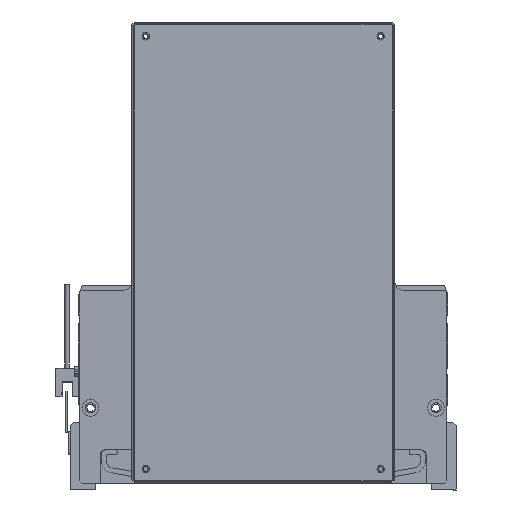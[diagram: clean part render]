
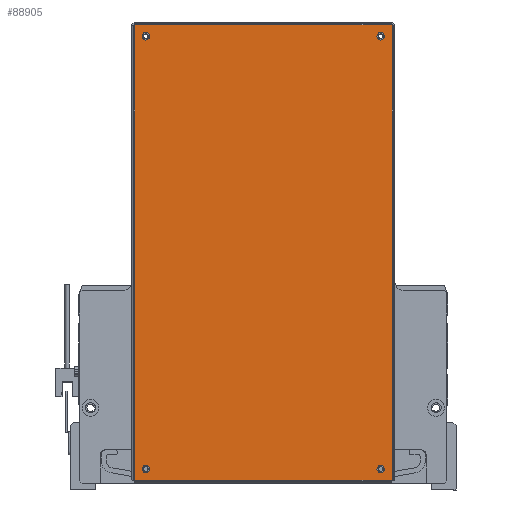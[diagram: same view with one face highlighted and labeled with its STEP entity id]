
A CAD part, front view. The second image highlights one B-rep face of the part: STEP entity #88905.
In plain terms, the highlighted planar face has unit normal (0, -1, 0) as drawn and (0, 0, 1) by its records, which use the part's own axes.
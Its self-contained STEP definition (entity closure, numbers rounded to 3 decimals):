
#556 = CARTESIAN_POINT ( 'NONE',  ( -70., 114., 71. ) ) ;
#831 = AXIS2_PLACEMENT_3D ( 'NONE', #556, #82921, #37355 ) ;
#886 = EDGE_LOOP ( 'NONE', ( #78038, #73719 ) ) ;
#1325 = ORIENTED_EDGE ( 'NONE', *, *, #1719, .F. ) ;
#1582 = EDGE_CURVE ( 'NONE', #117573, #93921, #27581, .T. ) ;
#1719 = EDGE_CURVE ( 'NONE', #44401, #8143, #20503, .T. ) ;
#2576 = CARTESIAN_POINT ( 'NONE',  ( 72.25, -144., 71. ) ) ;
#2708 = CARTESIAN_POINT ( 'NONE',  ( -76.763, -150.763, 71. ) ) ;
#2971 = ORIENTED_EDGE ( 'NONE', *, *, #60322, .F. ) ;
#3543 = CARTESIAN_POINT ( 'NONE',  ( 70., -144., 71. ) ) ;
#5717 = ORIENTED_EDGE ( 'NONE', *, *, #117945, .T. ) ;
#5911 = CIRCLE ( 'NONE', #44357, 2.25 ) ;
#6598 = DIRECTION ( 'NONE',  ( 0., 0., 1. ) ) ;
#6700 = VECTOR ( 'NONE', #72804, 1000. ) ;
#8143 = VERTEX_POINT ( 'NONE', #22482 ) ;
#9752 = LINE ( 'NONE', #2708, #98486 ) ;
#11354 = EDGE_CURVE ( 'NONE', #65501, #116315, #39442, .T. ) ;
#12573 = CARTESIAN_POINT ( 'NONE',  ( 0., -15., 71. ) ) ;
#12976 = PLANE ( 'NONE',  #20810 ) ;
#15846 = CARTESIAN_POINT ( 'NONE',  ( 76.763, 120.763, 71. ) ) ;
#15847 = VERTEX_POINT ( 'NONE', #70610 ) ;
#15875 = AXIS2_PLACEMENT_3D ( 'NONE', #114558, #50133, #86829 ) ;
#18398 = FACE_BOUND ( 'NONE', #70863, .T. ) ;
#20503 = CIRCLE ( 'NONE', #70156, 2.25 ) ;
#20810 = AXIS2_PLACEMENT_3D ( 'NONE', #12573, #113472, #49830 ) ;
#22482 = CARTESIAN_POINT ( 'NONE',  ( 67.75, 114., 71. ) ) ;
#23910 = VERTEX_POINT ( 'NONE', #2576 ) ;
#27581 = LINE ( 'NONE', #15846, #117886 ) ;
#28077 = EDGE_LOOP ( 'NONE', ( #70984, #69201, #83058, #5717 ) ) ;
#30428 = CARTESIAN_POINT ( 'NONE',  ( -67.75, 114., 71. ) ) ;
#32673 = AXIS2_PLACEMENT_3D ( 'NONE', #108725, #62717, #118340 ) ;
#32861 = CIRCLE ( 'NONE', #57934, 2.25 ) ;
#33826 = DIRECTION ( 'NONE',  ( -1., 0., 0. ) ) ;
#34045 = ORIENTED_EDGE ( 'NONE', *, *, #110826, .F. ) ;
#37355 = DIRECTION ( 'NONE',  ( 1., 0., 0. ) ) ;
#38485 = FACE_BOUND ( 'NONE', #886, .T. ) ;
#39442 = CIRCLE ( 'NONE', #15875, 2.25 ) ;
#41769 = EDGE_CURVE ( 'NONE', #23910, #98492, #55356, .T. ) ;
#42745 = VECTOR ( 'NONE', #51624, 1000. ) ;
#44357 = AXIS2_PLACEMENT_3D ( 'NONE', #106708, #6598, #78235 ) ;
#44401 = VERTEX_POINT ( 'NONE', #82701 ) ;
#44827 = ORIENTED_EDGE ( 'NONE', *, *, #41769, .F. ) ;
#45600 = FACE_OUTER_BOUND ( 'NONE', #28077, .T. ) ;
#49830 = DIRECTION ( 'NONE',  ( -1., 0., 0. ) ) ;
#50133 = DIRECTION ( 'NONE',  ( 0., 0., 1. ) ) ;
#51624 = DIRECTION ( 'NONE',  ( 0., -1., 0. ) ) ;
#54426 = CARTESIAN_POINT ( 'NONE',  ( 76.763, -150.763, 71. ) ) ;
#54980 = DIRECTION ( 'NONE',  ( 1., 0., 0. ) ) ;
#55210 = CIRCLE ( 'NONE', #93400, 2.25 ) ;
#55356 = CIRCLE ( 'NONE', #67325, 2.25 ) ;
#55713 = CARTESIAN_POINT ( 'NONE',  ( 76.763, 120.763, 71. ) ) ;
#55886 = CARTESIAN_POINT ( 'NONE',  ( 76.763, -150.763, 71. ) ) ;
#57934 = AXIS2_PLACEMENT_3D ( 'NONE', #99222, #72013, #63660 ) ;
#57986 = DIRECTION ( 'NONE',  ( 1., 0., 0. ) ) ;
#60156 = CARTESIAN_POINT ( 'NONE',  ( -76.763, -150.763, 71. ) ) ;
#60322 = EDGE_CURVE ( 'NONE', #15847, #87740, #32861, .T. ) ;
#62667 = LINE ( 'NONE', #54426, #6700 ) ;
#62717 = DIRECTION ( 'NONE',  ( 0., 0., 1. ) ) ;
#63006 = DIRECTION ( 'NONE',  ( 0., 0., 1. ) ) ;
#63660 = DIRECTION ( 'NONE',  ( 1., 0., 0. ) ) ;
#63747 = EDGE_CURVE ( 'NONE', #111281, #117573, #62667, .T. ) ;
#64822 = DIRECTION ( 'NONE',  ( 0., 0., 1. ) ) ;
#65501 = VERTEX_POINT ( 'NONE', #66476 ) ;
#66476 = CARTESIAN_POINT ( 'NONE',  ( -67.75, -144., 71. ) ) ;
#67325 = AXIS2_PLACEMENT_3D ( 'NONE', #3543, #77535, #103617 ) ;
#69201 = ORIENTED_EDGE ( 'NONE', *, *, #63747, .T. ) ;
#69552 = EDGE_CURVE ( 'NONE', #94133, #111281, #9752, .T. ) ;
#69963 = FACE_BOUND ( 'NONE', #87866, .T. ) ;
#70156 = AXIS2_PLACEMENT_3D ( 'NONE', #72382, #64822, #57986 ) ;
#70610 = CARTESIAN_POINT ( 'NONE',  ( -72.25, 114., 71. ) ) ;
#70863 = EDGE_LOOP ( 'NONE', ( #34045, #2971 ) ) ;
#70984 = ORIENTED_EDGE ( 'NONE', *, *, #69552, .T. ) ;
#72013 = DIRECTION ( 'NONE',  ( 0., 0., 1. ) ) ;
#72382 = CARTESIAN_POINT ( 'NONE',  ( 70., 114., 71. ) ) ;
#72804 = DIRECTION ( 'NONE',  ( 0., 1., 0. ) ) ;
#73719 = ORIENTED_EDGE ( 'NONE', *, *, #74818, .F. ) ;
#74818 = EDGE_CURVE ( 'NONE', #116315, #65501, #55210, .T. ) ;
#77535 = DIRECTION ( 'NONE',  ( 0., 0., 1. ) ) ;
#78038 = ORIENTED_EDGE ( 'NONE', *, *, #11354, .F. ) ;
#78235 = DIRECTION ( 'NONE',  ( 1., 0., 0. ) ) ;
#82701 = CARTESIAN_POINT ( 'NONE',  ( 72.25, 114., 71. ) ) ;
#82921 = DIRECTION ( 'NONE',  ( 0., 0., 1. ) ) ;
#83058 = ORIENTED_EDGE ( 'NONE', *, *, #1582, .T. ) ;
#86829 = DIRECTION ( 'NONE',  ( 1., 0., 0. ) ) ;
#87740 = VERTEX_POINT ( 'NONE', #30428 ) ;
#87866 = EDGE_LOOP ( 'NONE', ( #44827, #115182 ) ) ;
#88067 = CIRCLE ( 'NONE', #831, 2.25 ) ;
#88636 = EDGE_LOOP ( 'NONE', ( #1325, #93298 ) ) ;
#88905 = ADVANCED_FACE ( 'NONE', ( #18398, #69963, #38485, #97175, #45600 ), #12976, .F. ) ;
#91461 = LINE ( 'NONE', #107613, #42745 ) ;
#93298 = ORIENTED_EDGE ( 'NONE', *, *, #97221, .F. ) ;
#93400 = AXIS2_PLACEMENT_3D ( 'NONE', #110199, #63006, #54980 ) ;
#93921 = VERTEX_POINT ( 'NONE', #118662 ) ;
#94133 = VERTEX_POINT ( 'NONE', #60156 ) ;
#94301 = DIRECTION ( 'NONE',  ( 1., 0., 0. ) ) ;
#97175 = FACE_BOUND ( 'NONE', #88636, .T. ) ;
#97221 = EDGE_CURVE ( 'NONE', #8143, #44401, #5911, .T. ) ;
#98486 = VECTOR ( 'NONE', #94301, 1000. ) ;
#98492 = VERTEX_POINT ( 'NONE', #107462 ) ;
#99222 = CARTESIAN_POINT ( 'NONE',  ( -70., 114., 71. ) ) ;
#103617 = DIRECTION ( 'NONE',  ( 1., 0., 0. ) ) ;
#106708 = CARTESIAN_POINT ( 'NONE',  ( 70., 114., 71. ) ) ;
#107462 = CARTESIAN_POINT ( 'NONE',  ( 67.75, -144., 71. ) ) ;
#107613 = CARTESIAN_POINT ( 'NONE',  ( -76.763, 120.763, 71. ) ) ;
#107977 = EDGE_CURVE ( 'NONE', #98492, #23910, #114370, .T. ) ;
#108725 = CARTESIAN_POINT ( 'NONE',  ( 70., -144., 71. ) ) ;
#110199 = CARTESIAN_POINT ( 'NONE',  ( -70., -144., 71. ) ) ;
#110826 = EDGE_CURVE ( 'NONE', #87740, #15847, #88067, .T. ) ;
#111281 = VERTEX_POINT ( 'NONE', #55886 ) ;
#113472 = DIRECTION ( 'NONE',  ( 0., 0., -1. ) ) ;
#113890 = CARTESIAN_POINT ( 'NONE',  ( -72.25, -144., 71. ) ) ;
#114370 = CIRCLE ( 'NONE', #32673, 2.25 ) ;
#114558 = CARTESIAN_POINT ( 'NONE',  ( -70., -144., 71. ) ) ;
#115182 = ORIENTED_EDGE ( 'NONE', *, *, #107977, .F. ) ;
#116315 = VERTEX_POINT ( 'NONE', #113890 ) ;
#117573 = VERTEX_POINT ( 'NONE', #55713 ) ;
#117886 = VECTOR ( 'NONE', #33826, 1000. ) ;
#117945 = EDGE_CURVE ( 'NONE', #93921, #94133, #91461, .T. ) ;
#118340 = DIRECTION ( 'NONE',  ( 1., 0., 0. ) ) ;
#118662 = CARTESIAN_POINT ( 'NONE',  ( -76.763, 120.763, 71. ) ) ;
